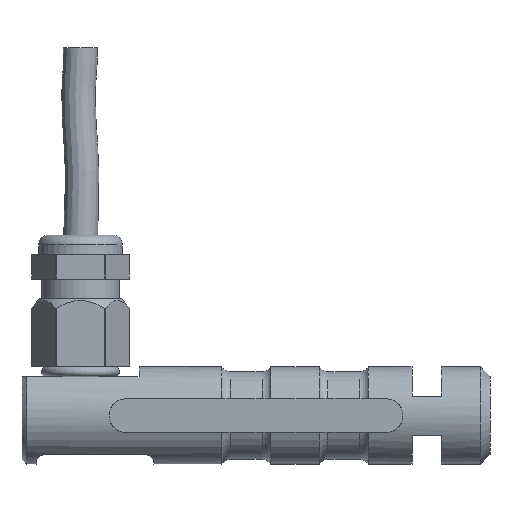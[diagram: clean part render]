
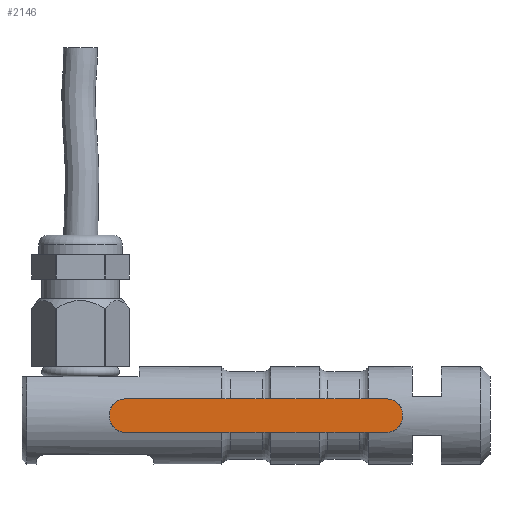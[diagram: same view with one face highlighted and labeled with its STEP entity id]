
A CAD part, front view. The second image highlights one B-rep face of the part: STEP entity #2146.
In plain terms, the highlighted planar face has unit normal (0, -1, 0).
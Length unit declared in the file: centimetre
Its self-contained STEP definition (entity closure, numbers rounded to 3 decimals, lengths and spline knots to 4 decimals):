
#669=PLANE('',#2277);
#752=VECTOR('',#2474,1.);
#755=VECTOR('',#2482,1.);
#761=VECTOR('',#2493,1.);
#763=VECTOR('',#2500,1.);
#864=LINE('',#3274,#752);
#867=LINE('',#3282,#755);
#873=LINE('',#3339,#761);
#875=LINE('',#3345,#763);
#997=VERTEX_POINT('',#3267);
#998=VERTEX_POINT('',#3268);
#999=VERTEX_POINT('',#3273);
#1000=VERTEX_POINT('',#3277);
#1001=VERTEX_POINT('',#3278);
#1008=VERTEX_POINT('',#3334);
#1009=VERTEX_POINT('',#3335);
#1010=VERTEX_POINT('',#3342);
#1124=CIRCLE('',#2254,0.15);
#1125=CIRCLE('',#2257,0.15);
#1126=CIRCLE('',#2260,0.15);
#1127=CIRCLE('',#2263,0.15);
#1235=EDGE_CURVE('',#997,#998,#1124,.T.);
#1239=EDGE_CURVE('',#999,#998,#864,.T.);
#1240=EDGE_CURVE('',#1000,#1001,#1125,.T.);
#1243=EDGE_CURVE('',#997,#1001,#867,.T.);
#1251=EDGE_CURVE('',#1008,#1009,#1126,.T.);
#1254=EDGE_CURVE('',#1000,#1009,#873,.T.);
#1255=EDGE_CURVE('',#999,#1010,#1127,.T.);
#1257=EDGE_CURVE('',#1008,#1010,#875,.T.);
#1611=ORIENTED_EDGE('',*,*,#1235,.T.);
#1612=ORIENTED_EDGE('',*,*,#1239,.F.);
#1613=ORIENTED_EDGE('',*,*,#1255,.T.);
#1614=ORIENTED_EDGE('',*,*,#1257,.F.);
#1615=ORIENTED_EDGE('',*,*,#1251,.T.);
#1616=ORIENTED_EDGE('',*,*,#1254,.F.);
#1617=ORIENTED_EDGE('',*,*,#1240,.T.);
#1618=ORIENTED_EDGE('',*,*,#1243,.F.);
#1909=EDGE_LOOP('',(#1611,#1612,#1613,#1614,#1615,#1616,#1617,#1618));
#2031=FACE_BOUND('',#1909,.T.);
#2146=ADVANCED_FACE('',(#2031),#669,.F.);
#2254=AXIS2_PLACEMENT_3D('',#3266,#2468,#2469);
#2257=AXIS2_PLACEMENT_3D('',#3276,#2477,#2478);
#2260=AXIS2_PLACEMENT_3D('',#3333,#2488,#2489);
#2263=AXIS2_PLACEMENT_3D('',#3341,#2496,#2497);
#2277=AXIS2_PLACEMENT_3D('',#3525,#2542,$);
#2468=DIRECTION('',(0.,-1.,0.));
#2469=DIRECTION('',(0.106,0.,-0.106));
#2474=DIRECTION('',(0.,0.,-1.));
#2477=DIRECTION('',(0.,-1.,0.));
#2478=DIRECTION('',(-0.106,0.,-0.106));
#2482=DIRECTION('',(-1.,0.,0.));
#2488=DIRECTION('',(0.,-1.,0.));
#2489=DIRECTION('',(-0.106,0.,0.106));
#2493=DIRECTION('',(0.,0.,1.));
#2496=DIRECTION('',(0.,-1.,0.));
#2497=DIRECTION('',(0.106,0.,0.106));
#2500=DIRECTION('',(1.,0.,0.));
#2542=DIRECTION('',(0.,1.,0.));
#3266=CARTESIAN_POINT('',(3.75,-0.3331,-0.02));
#3267=CARTESIAN_POINT('',(3.75,-0.3331,-0.17));
#3268=CARTESIAN_POINT('',(3.9,-0.3331,-0.02));
#3273=CARTESIAN_POINT('',(3.9,-0.3331,0.02));
#3274=CARTESIAN_POINT('',(3.9,-0.3331,0.17));
#3276=CARTESIAN_POINT('',(1.05,-0.3331,-0.02));
#3277=CARTESIAN_POINT('',(0.9,-0.3331,-0.02));
#3278=CARTESIAN_POINT('',(1.05,-0.3331,-0.17));
#3282=CARTESIAN_POINT('',(3.9,-0.3331,-0.17));
#3333=CARTESIAN_POINT('',(1.05,-0.3331,0.02));
#3334=CARTESIAN_POINT('',(1.05,-0.3331,0.17));
#3335=CARTESIAN_POINT('',(0.9,-0.3331,0.02));
#3339=CARTESIAN_POINT('',(0.9,-0.3331,-0.17));
#3341=CARTESIAN_POINT('',(3.75,-0.3331,0.02));
#3342=CARTESIAN_POINT('',(3.75,-0.3331,0.17));
#3345=CARTESIAN_POINT('',(0.9,-0.3331,0.17));
#3525=CARTESIAN_POINT('',(2.4,-0.3331,0.));
